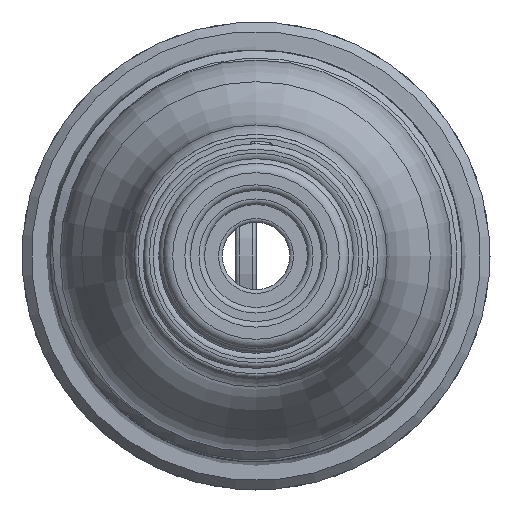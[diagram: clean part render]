
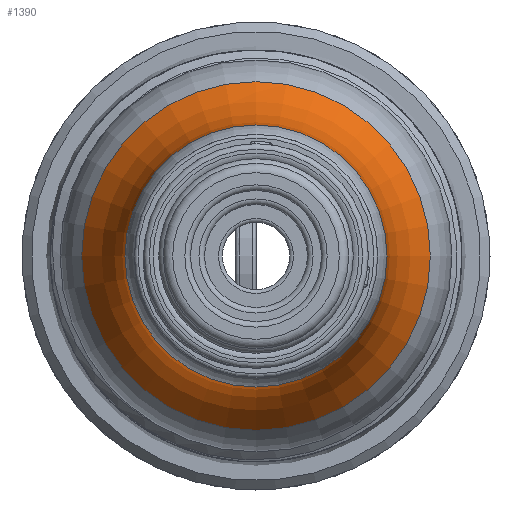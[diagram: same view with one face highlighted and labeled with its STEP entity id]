
A CAD part, left-side view. The second image highlights one B-rep face of the part: STEP entity #1390.
In plain terms, the highlighted toroidal (fillet/blend) face has major radius 17 mm and minor radius 10 mm.
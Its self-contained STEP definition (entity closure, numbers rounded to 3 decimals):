
#1390 = ADVANCED_FACE( '', ( #2982, #2983 ), #2984, .F. );
#2982 = FACE_OUTER_BOUND( '', #5008, .T. );
#2983 = FACE_OUTER_BOUND( '', #5009, .T. );
#2984 = TOROIDAL_SURFACE( '', #5010, 17., 10. );
#5008 = EDGE_LOOP( '', ( #8870 ) );
#5009 = EDGE_LOOP( '', ( #8871 ) );
#5010 = AXIS2_PLACEMENT_3D( '', #8872, #8873, #8874 );
#8870 = ORIENTED_EDGE( '', *, *, #10229, .T. );
#8871 = ORIENTED_EDGE( '', *, *, #11010, .F. );
#8872 = CARTESIAN_POINT( '', ( -15.5, 0., 0. ) );
#8873 = DIRECTION( '', ( -1., 0., 0. ) );
#8874 = DIRECTION( '', ( 0., 0., 1. ) );
#10229 = EDGE_CURVE( '', #12146, #12146, #12147, .T. );
#11010 = EDGE_CURVE( '', #13212, #13212, #13213, .T. );
#12146 = VERTEX_POINT( '', #15562 );
#12147 = CIRCLE( '', #15563, 9.313 );
#13212 = VERTEX_POINT( '', #17608 );
#13213 = CIRCLE( '', #17609, 7. );
#15562 = CARTESIAN_POINT( '', ( -9.104, 0., 9.313 ) );
#15563 = AXIS2_PLACEMENT_3D( '', #18729, #18730, #18731 );
#17608 = CARTESIAN_POINT( '', ( -15.5, 0., 7. ) );
#17609 = AXIS2_PLACEMENT_3D( '', #19644, #19645, #19646 );
#18729 = CARTESIAN_POINT( '', ( -9.104, 0., 0. ) );
#18730 = DIRECTION( '', ( -1., 0., 0. ) );
#18731 = DIRECTION( '', ( 0., 0., 1. ) );
#19644 = CARTESIAN_POINT( '', ( -15.5, 0., 0. ) );
#19645 = DIRECTION( '', ( -1., 0., 0. ) );
#19646 = DIRECTION( '', ( 0., 0., 1. ) );
